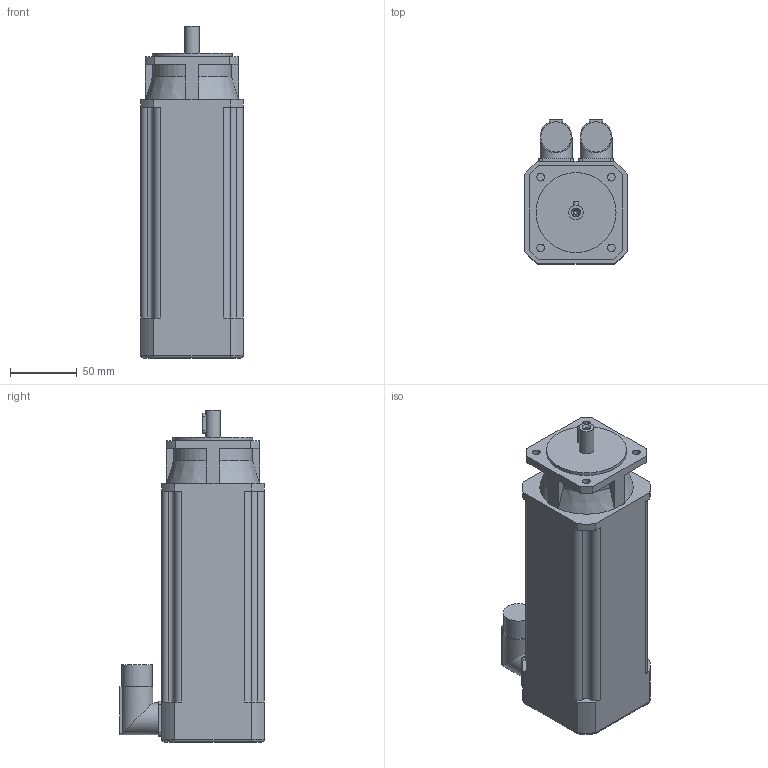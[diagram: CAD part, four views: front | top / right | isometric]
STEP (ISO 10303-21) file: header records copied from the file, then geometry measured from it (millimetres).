
FILE_DESCRIPTION(/* description */ (''),/* implementation_level */ '2;1');
FILE_NAME(/* name */ '\\Lafnas01\disegni\Archivi Lafert\3D\CAD 3D\MODELLI\Assiemi clienti\Serad\Modelli 3D Serad\B36I\Resolver\Res Without Brake\B3603Ixx6A052033.ipt.stp',/* time_stamp */ '2015-09-07T10:49:12+02:00',/* author */ ('Pastrello Ylenia'),/* organization */ (''),/* preprocessor_version */ 'ST-DEVELOPER v15.6',/* originating_system */ 'Autodesk Inventor 2015',/* authorisation */ '');
FILE_SCHEMA (('AUTOMOTIVE_DESIGN { 1 0 10303 214 3 1 1 }'));
Length unit declared in the file: millimetre
Products named in the file (1): B3603Ixx6A052033
Bounding box: 77 x 108.5 x 249 mm (x, y, z)
Volume: 1256915.7 mm3; surface area: 87966 mm2
Topology: 1 solids, 1 shells, 137 faces, 372 edges, 244 vertices
Faces by surface type: plane 66, cylinder 56, cone 11, torus 4
Full cylindrical faces by diameter (mm): 3.242 x1, 4.3 x1, 5.8 x4, 11 x1, 22.7 x2, 24 x2, 60 x1
Entity records: 4352 total; most frequent: CARTESIAN_POINT 890, DIRECTION 726, ORIENTED_EDGE 702, EDGE_CURVE 351, AXIS2_PLACEMENT_3D 259, VERTEX_POINT 239, LINE 208, VECTOR 208
